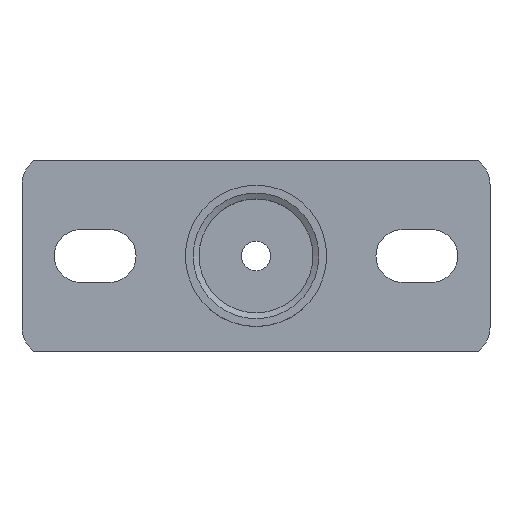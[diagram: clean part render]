
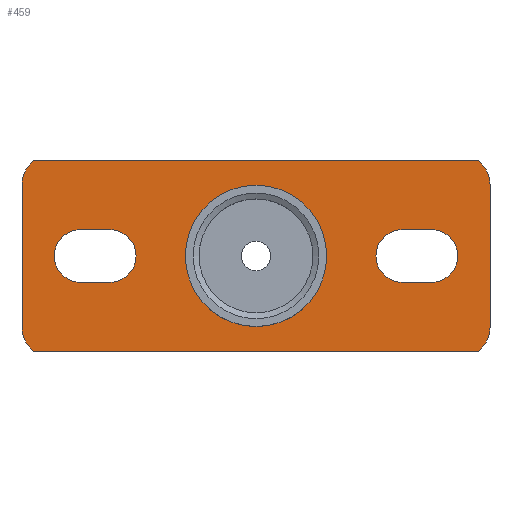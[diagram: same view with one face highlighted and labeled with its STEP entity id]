
A CAD part, top view. The second image highlights one B-rep face of the part: STEP entity #459.
In plain terms, the highlighted planar face has unit normal (0, 0, 1).
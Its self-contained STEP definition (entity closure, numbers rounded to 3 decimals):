
#17=FACE_BOUND('',#93,.T.);
#18=FACE_BOUND('',#94,.T.);
#19=FACE_BOUND('',#95,.T.);
#25=CIRCLE('',#503,10.);
#27=CIRCLE('',#507,10.);
#29=CIRCLE('',#511,10.);
#32=CIRCLE('',#516,10.);
#33=CIRCLE('',#517,9.);
#34=CIRCLE('',#518,9.);
#35=CIRCLE('',#519,9.);
#36=CIRCLE('',#520,9.);
#37=CIRCLE('',#521,24.15);
#66=FACE_OUTER_BOUND('',#92,.T.);
#92=EDGE_LOOP('',(#318,#319,#320,#321,#322,#323,#324,#325));
#93=EDGE_LOOP('',(#326,#327,#328,#329));
#94=EDGE_LOOP('',(#330,#331,#332,#333));
#95=EDGE_LOOP('',(#334));
#119=LINE('',#694,#156);
#123=LINE('',#706,#160);
#126=LINE('',#716,#163);
#130=LINE('',#733,#167);
#131=LINE('',#737,#168);
#132=LINE('',#741,#169);
#133=LINE('',#747,#170);
#134=LINE('',#750,#171);
#156=VECTOR('',#555,1.);
#160=VECTOR('',#567,1.);
#163=VECTOR('',#578,1.);
#167=VECTOR('',#596,1.);
#168=VECTOR('',#599,1.);
#169=VECTOR('',#602,1.);
#170=VECTOR('',#607,1.);
#171=VECTOR('',#610,1.);
#193=VERTEX_POINT('',#691);
#194=VERTEX_POINT('',#693);
#196=VERTEX_POINT('',#699);
#198=VERTEX_POINT('',#705);
#200=VERTEX_POINT('',#711);
#201=VERTEX_POINT('',#715);
#204=VERTEX_POINT('',#723);
#207=VERTEX_POINT('',#732);
#208=VERTEX_POINT('',#735);
#209=VERTEX_POINT('',#736);
#210=VERTEX_POINT('',#738);
#211=VERTEX_POINT('',#740);
#212=VERTEX_POINT('',#743);
#213=VERTEX_POINT('',#744);
#214=VERTEX_POINT('',#746);
#215=VERTEX_POINT('',#748);
#216=VERTEX_POINT('',#751);
#233=EDGE_CURVE('',#194,#193,#119,.T.);
#236=EDGE_CURVE('',#196,#194,#25,.T.);
#239=EDGE_CURVE('',#198,#196,#123,.T.);
#242=EDGE_CURVE('',#200,#198,#27,.T.);
#244=EDGE_CURVE('',#201,#200,#126,.T.);
#248=EDGE_CURVE('',#204,#201,#29,.T.);
#252=EDGE_CURVE('',#207,#204,#130,.T.);
#253=EDGE_CURVE('',#193,#207,#32,.T.);
#254=EDGE_CURVE('',#208,#209,#131,.T.);
#255=EDGE_CURVE('',#210,#208,#33,.T.);
#256=EDGE_CURVE('',#210,#211,#132,.T.);
#257=EDGE_CURVE('',#209,#211,#34,.T.);
#258=EDGE_CURVE('',#212,#213,#35,.T.);
#259=EDGE_CURVE('',#214,#212,#133,.T.);
#260=EDGE_CURVE('',#215,#214,#36,.T.);
#261=EDGE_CURVE('',#215,#213,#134,.T.);
#262=EDGE_CURVE('',#216,#216,#37,.T.);
#318=ORIENTED_EDGE('',*,*,#252,.T.);
#319=ORIENTED_EDGE('',*,*,#248,.T.);
#320=ORIENTED_EDGE('',*,*,#244,.T.);
#321=ORIENTED_EDGE('',*,*,#242,.T.);
#322=ORIENTED_EDGE('',*,*,#239,.T.);
#323=ORIENTED_EDGE('',*,*,#236,.T.);
#324=ORIENTED_EDGE('',*,*,#233,.T.);
#325=ORIENTED_EDGE('',*,*,#253,.T.);
#326=ORIENTED_EDGE('',*,*,#254,.F.);
#327=ORIENTED_EDGE('',*,*,#255,.F.);
#328=ORIENTED_EDGE('',*,*,#256,.T.);
#329=ORIENTED_EDGE('',*,*,#257,.F.);
#330=ORIENTED_EDGE('',*,*,#258,.F.);
#331=ORIENTED_EDGE('',*,*,#259,.F.);
#332=ORIENTED_EDGE('',*,*,#260,.F.);
#333=ORIENTED_EDGE('',*,*,#261,.T.);
#334=ORIENTED_EDGE('',*,*,#262,.F.);
#418=PLANE('',#515);
#459=ADVANCED_FACE('',(#66,#17,#18,#19),#418,.T.);
#503=AXIS2_PLACEMENT_3D('',#700,#561,#562);
#507=AXIS2_PLACEMENT_3D('',#712,#573,#574);
#511=AXIS2_PLACEMENT_3D('',#724,#585,#586);
#515=AXIS2_PLACEMENT_3D('',#731,#594,#595);
#516=AXIS2_PLACEMENT_3D('',#734,#597,#598);
#517=AXIS2_PLACEMENT_3D('',#739,#600,#601);
#518=AXIS2_PLACEMENT_3D('',#742,#603,#604);
#519=AXIS2_PLACEMENT_3D('',#745,#605,#606);
#520=AXIS2_PLACEMENT_3D('',#749,#608,#609);
#521=AXIS2_PLACEMENT_3D('',#752,#611,#612);
#555=DIRECTION('',(0.,1.,0.));
#561=DIRECTION('center_axis',(0.,0.,1.));
#562=DIRECTION('ref_axis',(0.,1.,0.));
#567=DIRECTION('',(1.,0.,0.));
#573=DIRECTION('center_axis',(0.,0.,1.));
#574=DIRECTION('ref_axis',(0.,1.,0.));
#578=DIRECTION('',(0.,-1.,0.));
#585=DIRECTION('center_axis',(0.,0.,1.));
#586=DIRECTION('ref_axis',(0.,1.,0.));
#594=DIRECTION('center_axis',(0.,0.,1.));
#595=DIRECTION('ref_axis',(-1.,0.,0.));
#596=DIRECTION('',(-1.,0.,0.));
#597=DIRECTION('center_axis',(0.,0.,1.));
#598=DIRECTION('ref_axis',(0.6,0.8,0.));
#599=DIRECTION('',(-1.,0.,0.));
#600=DIRECTION('center_axis',(0.,0.,1.));
#601=DIRECTION('ref_axis',(0.,1.,0.));
#602=DIRECTION('',(-1.,0.,0.));
#603=DIRECTION('center_axis',(0.,0.,1.));
#604=DIRECTION('ref_axis',(0.,-1.,0.));
#605=DIRECTION('center_axis',(0.,0.,1.));
#606=DIRECTION('ref_axis',(0.,-1.,0.));
#607=DIRECTION('',(-1.,0.,0.));
#608=DIRECTION('center_axis',(0.,0.,1.));
#609=DIRECTION('ref_axis',(0.,1.,0.));
#610=DIRECTION('',(-1.,0.,0.));
#611=DIRECTION('center_axis',(0.,0.,1.));
#612=DIRECTION('ref_axis',(0.,1.,0.));
#691=CARTESIAN_POINT('',(80.,24.5,8.));
#693=CARTESIAN_POINT('',(80.,-24.5,8.));
#694=CARTESIAN_POINT('',(80.,0.,8.));
#699=CARTESIAN_POINT('',(76.,-32.5,8.));
#700=CARTESIAN_POINT('Origin',(70.,-24.5,8.));
#705=CARTESIAN_POINT('',(-76.,-32.5,8.));
#706=CARTESIAN_POINT('',(0.,-32.5,8.));
#711=CARTESIAN_POINT('',(-80.,-24.5,8.));
#712=CARTESIAN_POINT('Origin',(-70.,-24.5,8.));
#715=CARTESIAN_POINT('',(-80.,24.5,8.));
#716=CARTESIAN_POINT('',(-80.,0.,8.));
#723=CARTESIAN_POINT('',(-76.,32.5,8.));
#724=CARTESIAN_POINT('Origin',(-70.,24.5,8.));
#731=CARTESIAN_POINT('Origin',(0.,0.,
8.));
#732=CARTESIAN_POINT('',(76.,32.5,8.));
#733=CARTESIAN_POINT('',(0.,32.5,8.));
#734=CARTESIAN_POINT('Origin',(70.,24.5,8.));
#735=CARTESIAN_POINT('',(60.,9.,8.));
#736=CARTESIAN_POINT('',(50.,9.,8.));
#737=CARTESIAN_POINT('',(0.,9.,8.));
#738=CARTESIAN_POINT('',(60.,-9.,8.));
#739=CARTESIAN_POINT('Origin',(60.,0.,8.));
#740=CARTESIAN_POINT('',(50.,-9.,8.));
#741=CARTESIAN_POINT('',(0.,-9.,8.));
#742=CARTESIAN_POINT('Origin',(50.,0.,8.));
#743=CARTESIAN_POINT('',(-60.,9.,8.));
#744=CARTESIAN_POINT('',(-60.,-9.,8.));
#745=CARTESIAN_POINT('Origin',(-60.,0.,8.));
#746=CARTESIAN_POINT('',(-50.,9.,8.));
#747=CARTESIAN_POINT('',(0.,9.,8.));
#748=CARTESIAN_POINT('',(-50.,-9.,8.));
#749=CARTESIAN_POINT('Origin',(-50.,0.,8.));
#750=CARTESIAN_POINT('',(0.,-9.,8.));
#751=CARTESIAN_POINT('',(0.,24.15,8.));
#752=CARTESIAN_POINT('Origin',(0.,0.,
8.));
